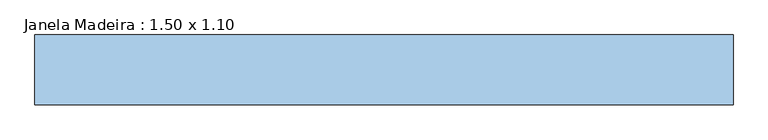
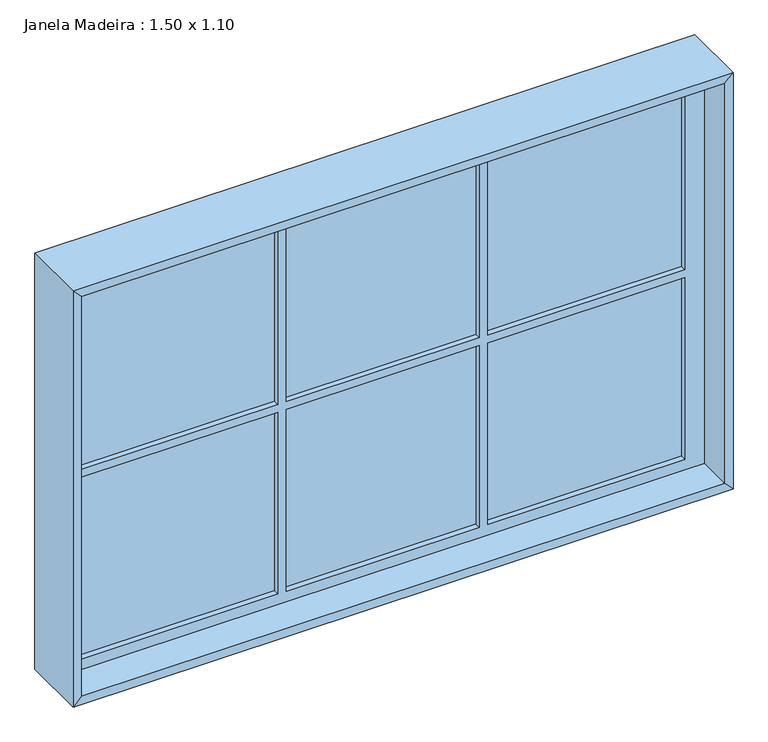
"""IFC4 building model written with IfcOpenShell, lengths in millimetres: window geometry, Janela Madeira : 1.50 x 1.10."""

from ifc_helpers import new_model, si_unit, frame, origin, place, context, project, spatial, polyline, outline, extrude, faceted_brep, source, transform, mapped, element, save


def janela_madeira_1_50_x_1_10_0449b646(model_context):
    return source(origin(), model_context, "Body", "SolidModel", [
        extrude(outline(polyline([(1960.95, 730.95), (1960.95, -730.95), (999.05, -730.95), (999.05, 730.95), (1960.95, 730.95)]), holes=[polyline([(1916.5, 219.3083333), (1480.0, 219.3083333), (1480.0, -219.3083333), (1916.5, -219.3083333), (1916.5, 219.3083333)]), polyline([(1024.45, 219.3083333), (1024.45, -219.3083333), (1460.95, -219.3083333), (1460.95, 219.3083333), (1024.45, 219.3083333)]), polyline([(1024.45, -686.5), (1460.95, -686.5), (1460.95, -238.3583333), (1024.45, -238.3583333), (1024.45, -686.5)]), polyline([(1916.5, -686.5), (1916.5, -238.3583333), (1480.0, -238.3583333), (1480.0, -686.5), (1916.5, -686.5)]), polyline([(1916.5, 686.5), (1480.0, 686.5), (1480.0, 238.3583333), (1916.5, 238.3583333), (1916.5, 686.5)]), polyline([(1024.45, 686.5), (1024.45, 238.3583333), (1460.95, 238.3583333), (1460.95, 686.5), (1024.45, 686.5)])]), frame((0.0, 5.15, 0.0), z_axis=(0.0, 1.0, 0.0), x_axis=(0.0, 0.0, 1.0)), (0.0, 0.0, 1.0), 44.45),
        extrude(outline(polyline([(686.5, 17.85), (-686.5, 17.85), (-686.5, 36.9), (686.5, 36.9), (686.5, 17.85)])), frame((0.0, 0.0, 1024.45), z_axis=(0.0, 0.0, 1.0), x_axis=(1.0, 0.0, 0.0)), (0.0, 0.0, 1.0), 892.05),
        faceted_brep([(-730.95, -75.0, 1960.95), (-750.0, -75.0, 1980.0), (-750.0, -75.0, 980.0), (-730.95, -75.0, 999.05), (-730.95, 75.0, 1960.95), (-730.95, 75.0, 999.05), (-750.0, 75.0, 1980.0), (-750.0, 75.0, 980.0), (750.0, -75.0, 980.0), (730.95, -75.0, 999.05), (730.95, 75.0, 999.05), (750.0, 75.0, 980.0), (750.0, -75.0, 1980.0), (730.95, -75.0, 1960.95), (730.95, 75.0, 1960.95), (750.0, 75.0, 1980.0)], [[[0, 1, 2, 3]], [[4, 0, 3, 5]], [[6, 4, 5, 7]], [[1, 6, 7, 2]], [[3, 2, 8, 9]], [[5, 3, 9, 10]], [[7, 5, 10, 11]], [[2, 7, 11, 8]], [[9, 8, 12, 13]], [[10, 9, 13, 14]], [[11, 10, 14, 15]], [[8, 11, 15, 12]], [[13, 12, 1, 0]], [[14, 13, 0, 4]], [[15, 14, 4, 6]], [[12, 15, 6, 1]]]),
    ])


if __name__ == "__main__":
    model = new_model("IFC4")
    model_context = context("Model", 3, world=origin())
    ifc_project = project(units=[si_unit("LENGTHUNIT", "METRE", prefix="MILLI")], contexts=[model_context])
    site = spatial("IfcSite", under=ifc_project)
    building = spatial("IfcBuilding", under=site)
    placement = place(None, origin())
    janela_madeira_1_50_x_1_10_shape = janela_madeira_1_50_x_1_10_0449b646(model_context)
    element("IfcWindow", 1, ObjectType="Janela Madeira : 1.50 x 1.10", at=placement, inside=building, context=model_context, shape_type="MappedRepresentation", body=[
        mapped(janela_madeira_1_50_x_1_10_shape, transform((0.0, 0.0, 0.0), x_axis=(1.0, 0.0, 0.0), y_axis=(0.0, 1.0, 0.0), z_axis=(0.0, 0.0, 1.0))),
    ])
    save(model, "model.ifc")
